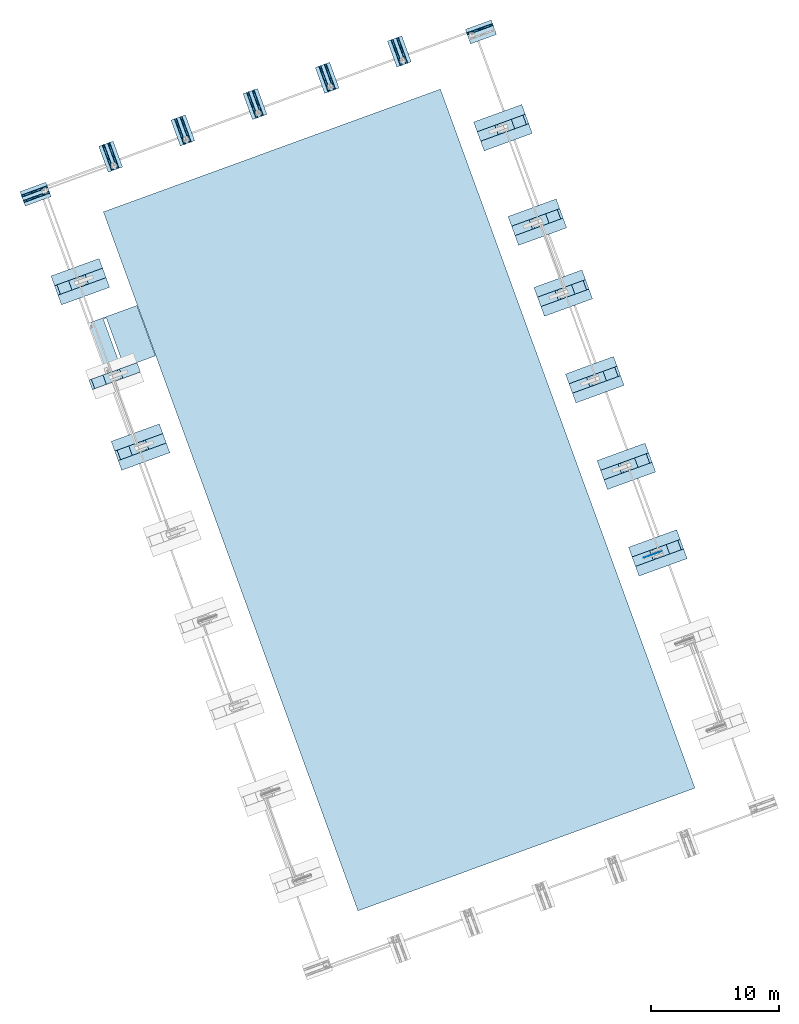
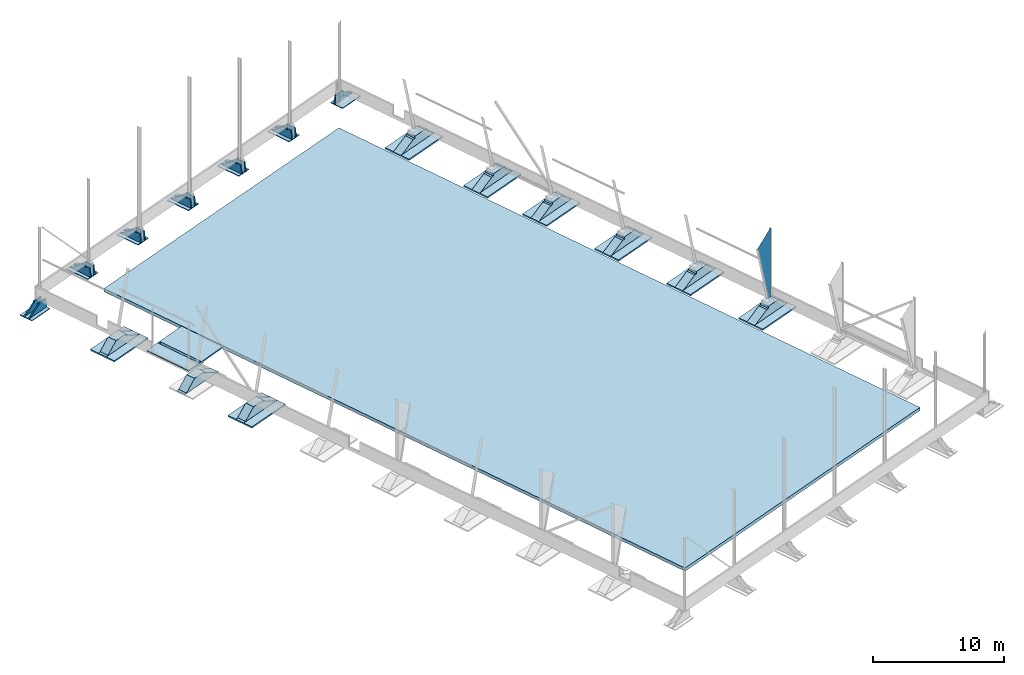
# One storey, part 13 of 20: 39 slabs, 1 plate, 1 opening, 40 elements without a shape of their own.
"""IFC4 building model written with IfcOpenShell, lengths in millimetres."""

import ifcopenshell
import ifcopenshell.guid

model = None  # the IFC model being written
_history = None  # IfcOwnerHistory: only IFC2X3 demands one
_inside = {}  # id of a spatial element -> (the spatial element, [elements in it])
_under = {}  # id of a project, library or spatial element -> (it, [spatial elements below it])
_declared = {}  # id of a project -> (the project, [libraries it declares])
_typed = {}  # id of a type object -> (the type object, [elements of that type])
_made_of = {}  # id of a material, layer set ... -> (it, [elements and type objects made of it])


def new_model(schema):
    """Start an empty IFC model of exactly this schema.

    Asked for "IFC4X3", IfcOpenShell would pick the latest addendum, in which some entities
    have other attributes; the version numbers below select the first issue.
    IFC2X3 requires an IfcOwnerHistory on every rooted entity: one is made here for all.
    """
    global model, _history
    if schema == "IFC4X3":
        model = ifcopenshell.file(schema_version=(4, 3, 0, 0))
    else:
        model = ifcopenshell.file(schema=schema)
    _inside.clear()
    _under.clear()
    _declared.clear()
    _typed.clear()
    _made_of.clear()
    _history = None
    if model.schema == "IFC2X3":
        org = make("IfcOrganization", Name="unknown")
        user = make(
            "IfcPersonAndOrganization",
            ThePerson=make("IfcPerson", FamilyName="unknown"),
            TheOrganization=org,
        )
        app = make(
            "IfcApplication",
            ApplicationDeveloper=org,
            Version="unknown",
            ApplicationFullName="unknown",
            ApplicationIdentifier="unknown",
        )
        _history = make(
            "IfcOwnerHistory",
            OwningUser=user,
            OwningApplication=app,
            ChangeAction="ADDED",
            CreationDate=0,
        )
    return model


def make(cls, **values):
    """One entity of the class cls with the attributes given. An attribute that is None is left unset."""
    return model.create_entity(
        cls, **{name: value for name, value in values.items() if value is not None}
    )


def rooted(cls, **values):
    """An entity with a GlobalId (a new one), such as an element, a storey or a relation."""
    return make(cls, GlobalId=ifcopenshell.guid.new(), OwnerHistory=_history, **values)


def si_unit(unit_type, name, prefix=None):
    """IfcSIUnit, for example si_unit("LENGTHUNIT", "METRE", prefix="MILLI")."""
    return make("IfcSIUnit", UnitType=unit_type, Prefix=prefix, Name=name)


def assignment(units):
    """IfcUnitAssignment: the units of a project."""
    return None if units is None else make("IfcUnitAssignment", Units=units)


def point(xyz):
    """IfcCartesianPoint."""
    return None if xyz is None else make("IfcCartesianPoint", Coordinates=xyz)


def direction(xyz):
    """IfcDirection."""
    return None if xyz is None else make("IfcDirection", DirectionRatios=xyz)


def frame(location, z_axis=None, x_axis=None):
    """IfcAxis2Placement3D, a coordinate frame: its origin and axes. An axis left out is left unset."""
    return make(
        "IfcAxis2Placement3D",
        Location=point(location),
        Axis=direction(z_axis),
        RefDirection=direction(x_axis),
    )


def origin_with_axes():
    """The frame at (0, 0, 0) with the z axis (0, 0, 1) and the x axis (1, 0, 0) written out."""
    return frame((0.0, 0.0, 0.0), z_axis=(0.0, 0.0, 1.0), x_axis=(1.0, 0.0, 0.0))


def place(relative_to, where):
    """IfcLocalPlacement: puts the frame where relative to a parent placement (None: the world)."""
    return make(
        "IfcLocalPlacement", PlacementRelTo=relative_to, RelativePlacement=where
    )


def context(
    kind, dimensions, precision=None, world=None, true_north=None, identifier=None
):
    """IfcGeometricRepresentationContext, for example the 3D "Model" context."""
    return make(
        "IfcGeometricRepresentationContext",
        ContextIdentifier=identifier,
        ContextType=kind,
        CoordinateSpaceDimension=dimensions,
        Precision=precision,
        WorldCoordinateSystem=world,
        TrueNorth=true_north,
    )


def subcontext(parent, identifier, kind, view, scale=None):
    """IfcGeometricRepresentationSubContext, for example "Body" below "Model"."""
    return make(
        "IfcGeometricRepresentationSubContext",
        ContextIdentifier=identifier,
        ContextType=kind,
        ParentContext=parent,
        TargetScale=scale,
        TargetView=view,
    )


def project(units=None, contexts=None):
    """IfcProject with its units and contexts."""
    return rooted(
        "IfcProject",
        Name="project",
        RepresentationContexts=contexts,
        UnitsInContext=assignment(units),
    )


def spatial(cls, under=None, at=None, **own):
    """A site, building, storey or space (cls), placed at a placement, below another one or the project."""
    s = rooted(cls, ObjectPlacement=at, **own)
    if under is not None:
        _under.setdefault(under.id(), (under, []))[1].append(s)
    return s


def point_list(points):
    """IfcCartesianPointList2D or 3D."""
    cls = (
        "IfcCartesianPointList2D" if len(points[0]) == 2 else "IfcCartesianPointList3D"
    )
    return make(cls, CoordList=points)


def line(*indices):
    """IfcLineIndex: a straight run through numbered points of an indexed curve."""
    return model.create_entity("IfcLineIndex", indices)


def indexed_curve(points, segments=None, self_intersect=None):
    """IfcIndexedPolyCurve: lines and arcs through numbered points (the first is 1)."""
    return make(
        "IfcIndexedPolyCurve",
        Points=point_list(points),
        Segments=segments,
        SelfIntersect=self_intersect,
    )


def outline(outer, holes=None, kind="AREA"):
    """IfcArbitraryClosedProfileDef: a profile drawn as a closed curve; with holes, ...WithVoids."""
    if holes is None:
        return make("IfcArbitraryClosedProfileDef", ProfileType=kind, OuterCurve=outer)
    return make(
        "IfcArbitraryProfileDefWithVoids",
        ProfileType=kind,
        OuterCurve=outer,
        InnerCurves=holes,
    )


def extrude(swept, where, along, depth):
    """IfcExtrudedAreaSolid: the profile swept, set in the frame where, extruded along a direction by depth."""
    return make(
        "IfcExtrudedAreaSolid",
        SweptArea=swept,
        Position=where,
        ExtrudedDirection=direction(along),
        Depth=depth,
    )


def shape(context_of_items, identifier, shape_type, items):
    """IfcShapeRepresentation: the items that make up one representation, for example the "Body"."""
    return make(
        "IfcShapeRepresentation",
        ContextOfItems=context_of_items,
        RepresentationIdentifier=identifier,
        RepresentationType=shape_type,
        Items=items,
    )


def material(Name=None, Category=None):
    """IfcMaterial."""
    return make("IfcMaterial", Name=Name, Category=Category)


def made_of(thing, what):
    """Note that an element or type object is made of a material, layer set ...; save() writes the relation."""
    if what is not None:
        _made_of.setdefault(what.id(), (what, []))[1].append(thing)
    return thing


def element(
    cls,
    number,
    at=None,
    inside=None,
    cuts=None,
    type_object=None,
    material=None,
    context=None,
    identifier="Body",
    shape_type=None,
    held_by="IfcProductDefinitionShape",
    body=None,
    shapes=None,
    **own,
):
    """One element of the class cls, such as IfcWall. Its Tag is "e" and its number.

    at: its placement. inside: the storey or other place that contains it. cuts: it is an
    opening in that element (IfcRelVoidsElement). A single representation is given by context,
    identifier, shape_type and body (its items); several are given by shapes. held_by: the class
    of the entity that holds the representations. save() writes the other relations.
    """
    e = rooted(cls, Tag="e%d" % number, ObjectPlacement=at, **own)
    if body is not None:
        shapes = [shape(context, identifier, shape_type, body)]
    if shapes is not None:
        e.Representation = make(held_by, Representations=shapes)
    if inside is not None:
        _inside.setdefault(inside.id(), (inside, []))[1].append(e)
    if cuts is not None:
        rooted(
            "IfcRelVoidsElement", RelatingBuildingElement=cuts, RelatedOpeningElement=e
        )
    if type_object is not None:
        _typed.setdefault(type_object.id(), (type_object, []))[1].append(e)
    return made_of(e, material)


def aggregate(whole, parts):
    """IfcRelAggregates: a whole, such as a stair, and the parts it consists of."""
    return rooted("IfcRelAggregates", RelatingObject=whole, RelatedObjects=parts)


def save(model, path):
    """Write the relations noted so far, then the file.

    IfcRelAggregates (storeys below a building ...), IfcRelContainedInSpatialStructure (elements
    in a storey), IfcRelDefinesByType, IfcRelAssociatesMaterial and IfcRelDeclares: one each for
    every whole, place, type object, material and project.
    """
    for whole, parts in _under.values():
        aggregate(whole, parts)
    for where, things in _inside.values():
        rooted(
            "IfcRelContainedInSpatialStructure",
            RelatedElements=things,
            RelatingStructure=where,
        )
    for kind, things in _typed.values():
        rooted("IfcRelDefinesByType", RelatedObjects=things, RelatingType=kind)
    for what, things in _made_of.values():
        rooted("IfcRelAssociatesMaterial", RelatedObjects=things, RelatingMaterial=what)
    for by, libraries in _declared.values():
        rooted("IfcRelDeclares", RelatingContext=by, RelatedDefinitions=libraries)
    model.write(path)


model = new_model("IFC4")

# Units and contexts
model_context = context("Model", 3, precision=0.2, world=frame((203566.813, 116264.779, 0.0), z_axis=(0.0, 0.0, 1.0), x_axis=(1.0, 0.0, 0.0)), true_north=direction((-0.9396138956, -0.3422363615)))
body_context = subcontext(model_context, "Body", "Model", "MODEL_VIEW")
ifc_project = project(units=[si_unit("LENGTHUNIT", "METRE", prefix="MILLI"), si_unit("AREAUNIT", "SQUARE_METRE"), si_unit("VOLUMEUNIT", "CUBIC_METRE"), si_unit("MASSUNIT", "GRAM", prefix="KILO"), si_unit("TIMEUNIT", "SECOND"), si_unit("PLANEANGLEUNIT", "RADIAN"), si_unit("SOLIDANGLEUNIT", "STERADIAN"), si_unit("THERMODYNAMICTEMPERATUREUNIT", "DEGREE_CELSIUS"), si_unit("LUMINOUSINTENSITYUNIT", "LUMEN")], contexts=[model_context])

# Site, building, storey
site_placement = place(None, origin_with_axes())
site = spatial("IfcSite", under=ifc_project, at=site_placement, Name="Nobelprojektet", CompositionType="ELEMENT")
building_placement = place(site_placement, origin_with_axes())
building = spatial("IfcBuilding", under=site, at=building_placement, Name="Hall B", CompositionType="ELEMENT")
storey_placement = place(building_placement, frame((0.0, 0.0, 1000.0), z_axis=(0.0, 0.0, 1.0), x_axis=(1.0, 0.0, 0.0)))
storey = spatial("IfcBuildingStorey", under=building, at=storey_placement, Name="Plan_1", CompositionType="ELEMENT", Elevation=1000.0)

# Assembly, slab
assembly_1_placement = place(storey_placement, frame((175074.14862, 143562.03183, 130904.99996), z_axis=(0.0, 0.0, 1.0), x_axis=(0.9396136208, 0.3422371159, 0.0)))
assembly_1 = element("IfcElementAssembly", 1, at=assembly_1_placement, inside=storey, Name="BEF_GRUND", PredefinedType="NOTDEFINED")
ifc_material_1 = material(Name="C25/30", Category="CONCRETE")
slab_1_placement = place(assembly_1_placement, origin_with_axes())
slab_1 = element("IfcSlab", 2, at=slab_1_placement, material=ifc_material_1, Name="BEF_GRUND", PredefinedType="NOTDEFINED", context=body_context, shape_type="SolidModel", body=[
    extrude(outline(indexed_curve([(0.0, 0.0), (4000.0, 0.0), (4000.0, 2399.9939), (0.0, 2400.0)], segments=[line(1, 2, 3, 4, 1)])), frame((0.0, 0.0, 65.0), z_axis=(0.0, 0.0, 1.0), x_axis=(1.0, 0.0, 0.0)), (0.0, 0.0, -1.0), 130.0),
])
aggregate(assembly_1, [slab_1])

assembly_2_placement = place(storey_placement, frame((178421.92237, 146058.51153, 130969.99996), z_axis=(0.3422371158, -0.9396136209, 1.3e-09), x_axis=(-0.9213674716, -0.3355896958, 0.1961161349)))
assembly_2 = element("IfcElementAssembly", 3, at=assembly_2_placement, inside=storey, Name="BEF_GRUND", PredefinedType="NOTDEFINED")
slab_2_placement = place(assembly_2_placement, origin_with_axes())
slab_2 = element("IfcSlab", 4, at=slab_2_placement, material=ifc_material_1, Name="BEF_GRUND", PredefinedType="NOTDEFINED", context=body_context, shape_type="SolidModel", body=[
    extrude(outline(indexed_curve([(0.0, 0.0), (203.96078, 0.0), (1321.82275, -653.45896), (2478.90795, -422.04192), (2439.68472, -225.92579), (2627.95621, -188.27149), (3734.05121, 706.01809), (3922.3227, 784.46454)], segments=[line(1, 2, 3, 4, 5, 6, 7, 8, 1)])), frame((0.0, 0.0, 392.5), z_axis=(0.0, 0.0, 1.0), x_axis=(1.0, 0.0, 0.0)), (0.0, 0.0, -1.0), 785.0),
])
aggregate(assembly_2, [slab_2])

assembly_3_placement = place(storey_placement, frame((172610.04139, 150327.2499, 130904.99996), z_axis=(0.0, 0.0, 1.0), x_axis=(0.9396136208, 0.3422371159, 0.0)))
assembly_3 = element("IfcElementAssembly", 5, at=assembly_3_placement, inside=storey, Name="BEF_GRUND", PredefinedType="NOTDEFINED")
slab_3_placement = place(assembly_3_placement, origin_with_axes())
slab_3 = element("IfcSlab", 6, at=slab_3_placement, material=ifc_material_1, Name="BEF_GRUND", PredefinedType="NOTDEFINED", context=body_context, shape_type="SolidModel", body=[
    extrude(outline(indexed_curve([(0.0, 0.0), (4000.0, 0.0), (4000.0, 2399.9939), (0.0, 2400.0)], segments=[line(1, 2, 3, 4, 1)])), frame((0.0, 0.0, 65.0), z_axis=(0.0, 0.0, 1.0), x_axis=(1.0, 0.0, 0.0)), (0.0, 0.0, -1.0), 130.0),
])
aggregate(assembly_3, [slab_3])

assembly_4_placement = place(storey_placement, frame((175957.81514, 152823.7296, 130969.99996), z_axis=(0.3422371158, -0.9396136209, 1.3e-09), x_axis=(-0.9213674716, -0.3355896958, 0.1961161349)))
assembly_4 = element("IfcElementAssembly", 7, at=assembly_4_placement, inside=storey, Name="BEF_GRUND", PredefinedType="NOTDEFINED")
slab_4_placement = place(assembly_4_placement, origin_with_axes())
slab_4 = element("IfcSlab", 8, at=slab_4_placement, material=ifc_material_1, Name="BEF_GRUND", PredefinedType="NOTDEFINED", context=body_context, shape_type="SolidModel", body=[
    extrude(outline(indexed_curve([(0.0, 0.0), (203.96078, 0.0), (1321.82275, -653.45896), (2478.90795, -422.04192), (2439.68472, -225.92579), (2627.95621, -188.27149), (3734.05121, 706.01809), (3922.3227, 784.46454)], segments=[line(1, 2, 3, 4, 5, 6, 7, 8, 1)])), frame((0.0, 0.0, 392.5), z_axis=(0.0, 0.0, 1.0), x_axis=(1.0, 0.0, 0.0)), (0.0, 0.0, -1.0), 785.0),
])
aggregate(assembly_4, [slab_4])

assembly_5_placement = place(storey_placement, frame((170145.93415, 157092.46797, 130904.99996), z_axis=(0.0, 0.0, 1.0), x_axis=(0.9396136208, 0.3422371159, 0.0)))
assembly_5 = element("IfcElementAssembly", 9, at=assembly_5_placement, inside=storey, Name="BEF_GRUND", PredefinedType="NOTDEFINED")
slab_5_placement = place(assembly_5_placement, origin_with_axes())
slab_5 = element("IfcSlab", 10, at=slab_5_placement, material=ifc_material_1, Name="BEF_GRUND", PredefinedType="NOTDEFINED", context=body_context, shape_type="SolidModel", body=[
    extrude(outline(indexed_curve([(0.0, 0.0), (4000.0, 0.0), (4000.0, 2399.9939), (0.0, 2400.0)], segments=[line(1, 2, 3, 4, 1)])), frame((0.0, 0.0, 65.0), z_axis=(0.0, 0.0, 1.0), x_axis=(1.0, 0.0, 0.0)), (0.0, 0.0, -1.0), 130.0),
])
aggregate(assembly_5, [slab_5])

assembly_6_placement = place(storey_placement, frame((173493.70791, 159588.94767, 130969.99996), z_axis=(0.3422371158, -0.9396136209, 1.3e-09), x_axis=(-0.9213674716, -0.3355896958, 0.1961161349)))
assembly_6 = element("IfcElementAssembly", 11, at=assembly_6_placement, inside=storey, Name="BEF_GRUND", PredefinedType="NOTDEFINED")
slab_6_placement = place(assembly_6_placement, origin_with_axes())
slab_6 = element("IfcSlab", 12, at=slab_6_placement, material=ifc_material_1, Name="BEF_GRUND", PredefinedType="NOTDEFINED", context=body_context, shape_type="SolidModel", body=[
    extrude(outline(indexed_curve([(0.0, 0.0), (203.96078, 0.0), (1321.82275, -653.45896), (2478.90795, -422.04192), (2439.68472, -225.92579), (2627.95621, -188.27149), (3734.05121, 706.01809), (3922.3227, 784.46454)], segments=[line(1, 2, 3, 4, 5, 6, 7, 8, 1)])), frame((0.0, 0.0, 392.5), z_axis=(0.0, 0.0, 1.0), x_axis=(1.0, 0.0, 0.0)), (0.0, 0.0, -1.0), 785.0),
])
aggregate(assembly_6, [slab_6])

assembly_7_placement = place(storey_placement, frame((167681.82692, 163857.68604, 130904.99996), z_axis=(0.0, 0.0, 1.0), x_axis=(0.9396136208, 0.3422371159, 0.0)))
assembly_7 = element("IfcElementAssembly", 13, at=assembly_7_placement, inside=storey, Name="BEF_GRUND", PredefinedType="NOTDEFINED")
slab_7_placement = place(assembly_7_placement, origin_with_axes())
slab_7 = element("IfcSlab", 14, at=slab_7_placement, material=ifc_material_1, Name="BEF_GRUND", PredefinedType="NOTDEFINED", context=body_context, shape_type="SolidModel", body=[
    extrude(outline(indexed_curve([(0.0, 0.0), (4000.0, 0.0), (4000.0, 2399.9939), (0.0, 2400.0)], segments=[line(1, 2, 3, 4, 1)])), frame((0.0, 0.0, 65.0), z_axis=(0.0, 0.0, 1.0), x_axis=(1.0, 0.0, 0.0)), (0.0, 0.0, -1.0), 130.0),
])
aggregate(assembly_7, [slab_7])

assembly_8_placement = place(storey_placement, frame((171029.60067, 166354.16574, 130969.99996), z_axis=(0.3422371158, -0.9396136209, 1.3e-09), x_axis=(-0.9213674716, -0.3355896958, 0.1961161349)))
assembly_8 = element("IfcElementAssembly", 15, at=assembly_8_placement, inside=storey, Name="BEF_GRUND", PredefinedType="NOTDEFINED")
slab_8_placement = place(assembly_8_placement, origin_with_axes())
slab_8 = element("IfcSlab", 16, at=slab_8_placement, material=ifc_material_1, Name="BEF_GRUND", PredefinedType="NOTDEFINED", context=body_context, shape_type="SolidModel", body=[
    extrude(outline(indexed_curve([(0.0, 0.0), (203.96078, 0.0), (1321.82275, -653.45896), (2478.90795, -422.04192), (2439.68472, -225.92579), (2627.95621, -188.27149), (3734.05121, 706.01809), (3922.3227, 784.46454)], segments=[line(1, 2, 3, 4, 5, 6, 7, 8, 1)])), frame((0.0, 0.0, 392.5), z_axis=(0.0, 0.0, 1.0), x_axis=(1.0, 0.0, 0.0)), (0.0, 0.0, -1.0), 785.0),
])
aggregate(assembly_8, [slab_8])

assembly_9_placement = place(storey_placement, frame((138422.26776, 153200.42553, 130904.99996), z_axis=(0.0, 0.0, -1.0), x_axis=(-0.9396136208, -0.3422371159, 0.0)))
assembly_9 = element("IfcElementAssembly", 17, at=assembly_9_placement, inside=storey, Name="BEF_GRUND", PredefinedType="NOTDEFINED")
slab_9_placement = place(assembly_9_placement, origin_with_axes())
slab_9 = element("IfcSlab", 18, at=slab_9_placement, material=ifc_material_1, Name="BEF_GRUND", PredefinedType="NOTDEFINED", context=body_context, shape_type="SolidModel", body=[
    extrude(outline(indexed_curve([(0.0, 0.0), (4000.0, 0.0), (4000.0, 2399.9939), (0.0, 2400.0)], segments=[line(1, 2, 3, 4, 1)])), frame((0.0, 0.0, 65.0), z_axis=(0.0, 0.0, 1.0), x_axis=(1.0, 0.0, 0.0)), (0.0, 0.0, -1.0), 130.0),
])
aggregate(assembly_9, [slab_9])

assembly_10_placement = place(storey_placement, frame((134253.12911, 152959.00705, 130969.99996), z_axis=(-0.3422371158, 0.9396136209, 1.3e-09), x_axis=(0.9213664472, 0.3355925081, 0.1961161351)))
assembly_10 = element("IfcElementAssembly", 19, at=assembly_10_placement, inside=storey, Name="BEF_GRUND", PredefinedType="NOTDEFINED")
slab_10_placement = place(assembly_10_placement, origin_with_axes())
slab_10 = element("IfcSlab", 20, at=slab_10_placement, material=ifc_material_1, Name="BEF_GRUND", PredefinedType="NOTDEFINED", context=body_context, shape_type="SolidModel", body=[
    extrude(outline(indexed_curve([(0.0, 0.0), (203.96078, 0.0), (1321.82275, -653.45896), (2478.90795, -422.04192), (2439.68472, -225.92579), (2627.95621, -188.27149), (3734.05121, 706.01809), (3922.3227, 784.46454)], segments=[line(1, 2, 3, 4, 5, 6, 7, 8, 1)])), frame((0.0, 0.0, 392.5), z_axis=(0.0, 0.0, 1.0), x_axis=(1.0, 0.0, 0.0)), (0.0, 0.0, -1.0), 785.0),
])
aggregate(assembly_10, [slab_10])

assembly_11_placement = place(storey_placement, frame((165662.62793, 169401.4064, 130904.99996), z_axis=(0.0, 0.0, 1.0), x_axis=(0.9396136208, 0.3422371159, 0.0)))
assembly_11 = element("IfcElementAssembly", 21, at=assembly_11_placement, inside=storey, Name="BEF_GRUND", PredefinedType="NOTDEFINED")
slab_11_placement = place(assembly_11_placement, origin_with_axes())
slab_11 = element("IfcSlab", 22, at=slab_11_placement, material=ifc_material_1, Name="BEF_GRUND", PredefinedType="NOTDEFINED", context=body_context, shape_type="SolidModel", body=[
    extrude(outline(indexed_curve([(0.0, 0.0), (4000.0, 0.0), (4000.0, 2399.9939), (0.0, 2400.0)], segments=[line(1, 2, 3, 4, 1)])), frame((0.0, 0.0, 65.0), z_axis=(0.0, 0.0, 1.0), x_axis=(1.0, 0.0, 0.0)), (0.0, 0.0, -1.0), 130.0),
])
aggregate(assembly_11, [slab_11])

assembly_12_placement = place(storey_placement, frame((169010.40169, 171897.8861, 130969.99996), z_axis=(0.3422371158, -0.9396136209, 1.3e-09), x_axis=(-0.9213674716, -0.3355896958, 0.1961161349)))
assembly_12 = element("IfcElementAssembly", 23, at=assembly_12_placement, inside=storey, Name="BEF_GRUND", PredefinedType="NOTDEFINED")
slab_12_placement = place(assembly_12_placement, origin_with_axes())
slab_12 = element("IfcSlab", 24, at=slab_12_placement, material=ifc_material_1, Name="BEF_GRUND", PredefinedType="NOTDEFINED", context=body_context, shape_type="SolidModel", body=[
    extrude(outline(indexed_curve([(0.0, 0.0), (203.96078, 0.0), (1321.82275, -653.45896), (2478.90795, -422.04192), (2439.68472, -225.92579), (2627.95621, -188.27149), (3734.05121, 706.01809), (3922.3227, 784.46454)], segments=[line(1, 2, 3, 4, 5, 6, 7, 8, 1)])), frame((0.0, 0.0, 392.5), z_axis=(0.0, 0.0, 1.0), x_axis=(1.0, 0.0, 0.0)), (0.0, 0.0, -1.0), 785.0),
])
aggregate(assembly_12, [slab_12])

assembly_13_placement = place(storey_placement, frame((132233.93012, 158502.72741, 130969.99996), z_axis=(-0.3422371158, 0.9396136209, 1.3e-09), x_axis=(0.9213664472, 0.3355925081, 0.1961161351)))
assembly_13 = element("IfcElementAssembly", 25, at=assembly_13_placement, inside=storey, Name="BEF_GRUND", PredefinedType="NOTDEFINED")
slab_13_placement = place(assembly_13_placement, origin_with_axes())
slab_13 = element("IfcSlab", 26, at=slab_13_placement, material=ifc_material_1, Name="BEF_GRUND", PredefinedType="NOTDEFINED", context=body_context, shape_type="SolidModel", body=[
    extrude(outline(indexed_curve([(0.0, 0.0), (203.96078, 0.0), (1321.82275, -653.45896), (2478.90795, -422.04192), (2439.68472, -225.92579), (2627.95621, -188.27149), (3734.05121, 706.01809), (3922.3227, 784.46454)], segments=[line(1, 2, 3, 4, 5, 6, 7, 8, 1)])), frame((0.0, 0.0, 392.5), z_axis=(0.0, 0.0, 1.0), x_axis=(1.0, 0.0, 0.0)), (0.0, 0.0, -1.0), 785.0),
])
aggregate(assembly_13, [slab_13])

assembly_14_placement = place(storey_placement, frame((162976.06657, 176777.37333, 130904.99996), z_axis=(0.0, 0.0, 1.0), x_axis=(0.9396136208, 0.3422371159, 0.0)))
assembly_14 = element("IfcElementAssembly", 27, at=assembly_14_placement, inside=storey, Name="BEF_GRUND", PredefinedType="NOTDEFINED")
slab_14_placement = place(assembly_14_placement, origin_with_axes())
slab_14 = element("IfcSlab", 28, at=slab_14_placement, material=ifc_material_1, Name="BEF_GRUND", PredefinedType="NOTDEFINED", context=body_context, shape_type="SolidModel", body=[
    extrude(outline(indexed_curve([(0.0, 0.0), (4000.0, 0.0), (4000.0, 2399.9939), (0.0, 2400.0)], segments=[line(1, 2, 3, 4, 1)])), frame((0.0, 0.0, 65.0), z_axis=(0.0, 0.0, 1.0), x_axis=(1.0, 0.0, 0.0)), (0.0, 0.0, -1.0), 130.0),
])
aggregate(assembly_14, [slab_14])

assembly_15_placement = place(storey_placement, frame((166323.84033, 179273.85303, 130969.99996), z_axis=(0.3422371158, -0.9396136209, 1.3e-09), x_axis=(-0.9213674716, -0.3355896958, 0.1961161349)))
assembly_15 = element("IfcElementAssembly", 29, at=assembly_15_placement, inside=storey, Name="BEF_GRUND", PredefinedType="NOTDEFINED")
slab_15_placement = place(assembly_15_placement, origin_with_axes())
slab_15 = element("IfcSlab", 30, at=slab_15_placement, material=ifc_material_1, Name="BEF_GRUND", PredefinedType="NOTDEFINED", context=body_context, shape_type="SolidModel", body=[
    extrude(outline(indexed_curve([(0.0, 0.0), (203.96078, 0.0), (1321.82275, -653.45896), (2478.90795, -422.04192), (2439.68472, -225.92579), (2627.95621, -188.27149), (3734.05121, 706.01809), (3922.3227, 784.46454)], segments=[line(1, 2, 3, 4, 5, 6, 7, 8, 1)])), frame((0.0, 0.0, 392.5), z_axis=(0.0, 0.0, 1.0), x_axis=(1.0, 0.0, 0.0)), (0.0, 0.0, -1.0), 785.0),
])
aggregate(assembly_15, [slab_15])

assembly_16_placement = place(storey_placement, frame((133716.50742, 166120.11282, 130904.99996), z_axis=(0.0, 0.0, -1.0), x_axis=(-0.9396136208, -0.3422371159, 0.0)))
assembly_16 = element("IfcElementAssembly", 31, at=assembly_16_placement, inside=storey, Name="BEF_GRUND", PredefinedType="NOTDEFINED")
slab_16_placement = place(assembly_16_placement, origin_with_axes())
slab_16 = element("IfcSlab", 32, at=slab_16_placement, material=ifc_material_1, Name="BEF_GRUND", PredefinedType="NOTDEFINED", context=body_context, shape_type="SolidModel", body=[
    extrude(outline(indexed_curve([(0.0, 0.0), (4000.0, 0.0), (4000.0, 2399.9939), (0.0, 2400.0)], segments=[line(1, 2, 3, 4, 1)])), frame((0.0, 0.0, 65.0), z_axis=(0.0, 0.0, 1.0), x_axis=(1.0, 0.0, 0.0)), (0.0, 0.0, -1.0), 130.0),
])
aggregate(assembly_16, [slab_16])

assembly_17_placement = place(storey_placement, frame((129547.36877, 165878.69434, 130969.99996), z_axis=(-0.3422371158, 0.9396136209, 1.3e-09), x_axis=(0.9213664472, 0.3355925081, 0.1961161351)))
assembly_17 = element("IfcElementAssembly", 33, at=assembly_17_placement, inside=storey, Name="BEF_GRUND", PredefinedType="NOTDEFINED")
slab_17_placement = place(assembly_17_placement, origin_with_axes())
slab_17 = element("IfcSlab", 34, at=slab_17_placement, material=ifc_material_1, Name="BEF_GRUND", PredefinedType="NOTDEFINED", context=body_context, shape_type="SolidModel", body=[
    extrude(outline(indexed_curve([(0.0, 0.0), (203.96078, 0.0), (1321.82275, -653.45896), (2478.90795, -422.04192), (2439.68472, -225.92579), (2627.95621, -188.27149), (3734.05121, 706.01809), (3922.3227, 784.46454)], segments=[line(1, 2, 3, 4, 5, 6, 7, 8, 1)])), frame((0.0, 0.0, 392.5), z_axis=(0.0, 0.0, 1.0), x_axis=(1.0, 0.0, 0.0)), (0.0, 0.0, -1.0), 785.0),
])
aggregate(assembly_17, [slab_17])

assembly_18_placement = place(storey_placement, frame((161918.07572, 185140.28518, 131014.99996), z_axis=(0.0, 0.0, 1.0), x_axis=(0.9396136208, 0.3422371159, 0.0)))
assembly_18 = element("IfcElementAssembly", 35, at=assembly_18_placement, inside=storey, Name="BEF_GRUND", PredefinedType="NOTDEFINED")
slab_18_placement = place(assembly_18_placement, origin_with_axes())
slab_18 = element("IfcSlab", 36, at=slab_18_placement, material=ifc_material_1, Name="BEF_GRUND", PredefinedType="NOTDEFINED", context=body_context, shape_type="SolidModel", body=[
    extrude(outline(indexed_curve([(0.0, 0.0), (2150.00916, 0.0), (2150.00916, 1200.01221), (0.0, 1200.01221)], segments=[line(1, 2, 3, 4, 1)])), frame((0.0, 0.0, 35.0), z_axis=(0.0, 0.0, 1.0), x_axis=(1.0, 0.0, 0.0)), (0.0, 0.0, -1.0), 70.0),
])
aggregate(assembly_18, [slab_18])

assembly_19_placement = place(storey_placement, frame((163655.23009, 186653.16387, 131049.99996), z_axis=(0.3422371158, -0.9396136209, 1.3e-09), x_axis=(-0.9257183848, -0.3371760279, 0.171341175)))
assembly_19 = element("IfcElementAssembly", 37, at=assembly_19_placement, inside=storey, Name="BEF_GRUND", PredefinedType="NOTDEFINED")
slab_19_placement = place(assembly_19_placement, origin_with_axes())
slab_19 = element("IfcSlab", 38, at=slab_19_placement, material=ifc_material_1, Name="BEF_GRUND", PredefinedType="NOTDEFINED", context=body_context, shape_type="SolidModel", body=[
    extrude(outline(indexed_curve([(0.0, 0.0), (233.45235, 0.0), (1303.30665, -502.11531), (1328.66514, -601.23618), (1710.9273, -534.75581), (1693.79318, -436.23463), (1800.19605, -417.72978), (1821.27102, -515.56559), (2151.31695, -458.1663), (2118.21429, 368.38509)], segments=[line(1, 2, 3, 4, 5, 6, 7, 8, 9, 10, 1)])), frame((0.0, 0.0, 65.0), z_axis=(0.0, 0.0, 1.0), x_axis=(1.0, 0.0, 0.0)), (0.0, 0.0, -1.0), 130.0),
])
aggregate(assembly_19, [slab_19])

assembly_20_placement = place(storey_placement, frame((129148.12719, 173204.42939, 131014.99996), z_axis=(0.0, 0.0, -1.0), x_axis=(-0.9396136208, -0.3422371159, 0.0)))
assembly_20 = element("IfcElementAssembly", 39, at=assembly_20_placement, inside=storey, Name="BEF_GRUND", PredefinedType="NOTDEFINED")
slab_20_placement = place(assembly_20_placement, origin_with_axes())
slab_20 = element("IfcSlab", 40, at=slab_20_placement, material=ifc_material_1, Name="BEF_GRUND", PredefinedType="NOTDEFINED", context=body_context, shape_type="SolidModel", body=[
    extrude(outline(indexed_curve([(0.0, 0.0), (2150.00916, 0.0), (2150.00916, 1200.01221), (0.0, 1200.01221)], segments=[line(1, 2, 3, 4, 1)])), frame((0.0, 0.0, 35.0), z_axis=(0.0, 0.0, 1.0), x_axis=(1.0, 0.0, 0.0)), (0.0, 0.0, -1.0), 70.0),
])
aggregate(assembly_20, [slab_20])

assembly_21_placement = place(storey_placement, frame((126844.91077, 173245.67675, 131049.99996), z_axis=(-0.3422371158, 0.9396136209, 1.3e-09), x_axis=(0.9257183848, 0.3371760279, 0.171341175)))
assembly_21 = element("IfcElementAssembly", 41, at=assembly_21_placement, inside=storey, Name="BEF_GRUND", PredefinedType="NOTDEFINED")
slab_21_placement = place(assembly_21_placement, origin_with_axes())
slab_21 = element("IfcSlab", 42, at=slab_21_placement, material=ifc_material_1, Name="BEF_GRUND", PredefinedType="NOTDEFINED", context=body_context, shape_type="SolidModel", body=[
    extrude(outline(indexed_curve([(0.0, 0.0), (233.45235, 0.0), (1303.30665, -502.11531), (1328.66514, -601.23618), (1710.9273, -534.75581), (1693.79318, -436.23463), (1800.19605, -417.72978), (1821.27102, -515.56559), (2151.31695, -458.1663), (2118.21429, 368.38509)], segments=[line(1, 2, 3, 4, 5, 6, 7, 8, 9, 10, 1)])), frame((0.0, 0.0, 65.0), z_axis=(0.0, 0.0, 1.0), x_axis=(1.0, 0.0, 0.0)), (0.0, 0.0, -1.0), 130.0),
])
aggregate(assembly_21, [slab_21])

assembly_22_placement = place(storey_placement, frame((127000.28642, 172819.09217, 131049.99996), z_axis=(-0.3422371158, 0.9396136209, 1.3e-09), x_axis=(0.9257183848, 0.3371760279, 0.171341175)))
assembly_22 = element("IfcElementAssembly", 43, at=assembly_22_placement, inside=storey, Name="BEF_GRUND", PredefinedType="NOTDEFINED")
slab_22_placement = place(assembly_22_placement, origin_with_axes())
slab_22 = element("IfcSlab", 44, at=slab_22_placement, material=ifc_material_1, Name="BEF_GRUND", PredefinedType="NOTDEFINED", context=body_context, shape_type="SolidModel", body=[
    extrude(outline(indexed_curve([(0.0, 0.0), (233.45235, 0.0), (1303.30665, -502.11531), (1328.66514, -601.23618), (1710.9273, -534.75581), (1693.79318, -436.23463), (1800.19605, -417.72978), (1821.27102, -515.56559), (2151.31695, -458.1663), (2118.21429, 368.38509)], segments=[line(1, 2, 3, 4, 5, 6, 7, 8, 9, 10, 1)])), frame((0.0, 0.0, 65.0), z_axis=(0.0, 0.0, 1.0), x_axis=(1.0, 0.0, 0.0)), (0.0, 0.0, -1.0), 130.0),
])
aggregate(assembly_22, [slab_22])

assembly_23_placement = place(storey_placement, frame((157280.51386, 183736.36448, 131014.99996), z_axis=(0.0, 0.0, 1.0), x_axis=(-0.3422371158, 0.9396136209, 1.3e-09)))
assembly_23 = element("IfcElementAssembly", 45, at=assembly_23_placement, inside=storey, Name="BEF_GRUND", PredefinedType="NOTDEFINED")
slab_23_placement = place(assembly_23_placement, origin_with_axes())
slab_23 = element("IfcSlab", 46, at=slab_23_placement, material=ifc_material_1, Name="BEF_GRUND", PredefinedType="NOTDEFINED", context=body_context, shape_type="SolidModel", body=[
    extrude(outline(indexed_curve([(0.0, 0.0), (2150.00916, 0.0), (2150.00916, 1200.01221), (0.0, 1200.01221)], segments=[line(1, 2, 3, 4, 1)])), frame((0.0, 0.0, 35.0), z_axis=(0.0, 0.0, 1.0), x_axis=(1.0, 0.0, 0.0)), (0.0, 0.0, -1.0), 70.0),
])
aggregate(assembly_23, [slab_23])

assembly_24_placement = place(storey_placement, frame((155767.63516, 185473.51885, 131049.99996), z_axis=(0.9396136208, 0.3422371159, 0.0), x_axis=(0.3371760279, -0.9257183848, 0.171341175)))
assembly_24 = element("IfcElementAssembly", 47, at=assembly_24_placement, inside=storey, Name="BEF_GRUND", PredefinedType="NOTDEFINED")
slab_24_placement = place(assembly_24_placement, origin_with_axes())
slab_24 = element("IfcSlab", 48, at=slab_24_placement, material=ifc_material_1, Name="BEF_GRUND", PredefinedType="NOTDEFINED", context=body_context, shape_type="SolidModel", body=[
    extrude(outline(indexed_curve([(0.0, 0.0), (233.45235, 0.0), (1303.30665, -502.11531), (1328.66514, -601.23618), (1710.9273, -534.75581), (1693.79318, -436.23463), (1800.19605, -417.72978), (1821.27102, -515.56559), (2151.31695, -458.1663), (2118.21429, 368.38509)], segments=[line(1, 2, 3, 4, 5, 6, 7, 8, 9, 10, 1)])), frame((0.0, 0.0, 65.0), z_axis=(0.0, 0.0, 1.0), x_axis=(1.0, 0.0, 0.0)), (0.0, 0.0, -1.0), 130.0),
])
aggregate(assembly_24, [slab_24])

assembly_25_placement = place(storey_placement, frame((156194.21975, 185628.8945, 131049.99996), z_axis=(0.9396136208, 0.3422371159, 0.0), x_axis=(0.3371760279, -0.9257183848, 0.171341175)))
assembly_25 = element("IfcElementAssembly", 49, at=assembly_25_placement, inside=storey, Name="BEF_GRUND", PredefinedType="NOTDEFINED")
slab_25_placement = place(assembly_25_placement, origin_with_axes())
slab_25 = element("IfcSlab", 50, at=slab_25_placement, material=ifc_material_1, Name="BEF_GRUND", PredefinedType="NOTDEFINED", context=body_context, shape_type="SolidModel", body=[
    extrude(outline(indexed_curve([(0.0, 0.0), (233.45235, 0.0), (1303.30665, -502.11531), (1328.66514, -601.23618), (1710.9273, -534.75581), (1693.79318, -436.23463), (1800.19605, -417.72978), (1821.27102, -515.56559), (2151.31695, -458.1663), (2118.21429, 368.38509)], segments=[line(1, 2, 3, 4, 5, 6, 7, 8, 9, 10, 1)])), frame((0.0, 0.0, 65.0), z_axis=(0.0, 0.0, 1.0), x_axis=(1.0, 0.0, 0.0)), (0.0, 0.0, -1.0), 130.0),
])
aggregate(assembly_25, [slab_25])

assembly_26_placement = place(storey_placement, frame((151642.83213, 181682.94179, 131014.99996), z_axis=(0.0, 0.0, 1.0), x_axis=(-0.3422371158, 0.9396136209, 1.3e-09)))
assembly_26 = element("IfcElementAssembly", 51, at=assembly_26_placement, inside=storey, Name="BEF_GRUND", PredefinedType="NOTDEFINED")
slab_26_placement = place(assembly_26_placement, origin_with_axes())
slab_26 = element("IfcSlab", 52, at=slab_26_placement, material=ifc_material_1, Name="BEF_GRUND", PredefinedType="NOTDEFINED", context=body_context, shape_type="SolidModel", body=[
    extrude(outline(indexed_curve([(0.0, 0.0), (2150.00916, 0.0), (2150.00916, 1200.01221), (0.0, 1200.01221)], segments=[line(1, 2, 3, 4, 1)])), frame((0.0, 0.0, 35.0), z_axis=(0.0, 0.0, 1.0), x_axis=(1.0, 0.0, 0.0)), (0.0, 0.0, -1.0), 70.0),
])
aggregate(assembly_26, [slab_26])

assembly_27_placement = place(storey_placement, frame((150129.95344, 183420.09615, 131049.99996), z_axis=(0.9396136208, 0.3422371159, 0.0), x_axis=(0.3371760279, -0.9257183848, 0.171341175)))
assembly_27 = element("IfcElementAssembly", 53, at=assembly_27_placement, inside=storey, Name="BEF_GRUND", PredefinedType="NOTDEFINED")
slab_27_placement = place(assembly_27_placement, origin_with_axes())
slab_27 = element("IfcSlab", 54, at=slab_27_placement, material=ifc_material_1, Name="BEF_GRUND", PredefinedType="NOTDEFINED", context=body_context, shape_type="SolidModel", body=[
    extrude(outline(indexed_curve([(0.0, 0.0), (233.45235, 0.0), (1303.30665, -502.11531), (1328.66514, -601.23618), (1710.9273, -534.75581), (1693.79318, -436.23463), (1800.19605, -417.72978), (1821.27102, -515.56559), (2151.31695, -458.1663), (2118.21429, 368.38509)], segments=[line(1, 2, 3, 4, 5, 6, 7, 8, 9, 10, 1)])), frame((0.0, 0.0, 65.0), z_axis=(0.0, 0.0, 1.0), x_axis=(1.0, 0.0, 0.0)), (0.0, 0.0, -1.0), 130.0),
])
aggregate(assembly_27, [slab_27])

assembly_28_placement = place(storey_placement, frame((150556.53802, 183575.4718, 131049.99996), z_axis=(0.9396136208, 0.3422371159, 0.0), x_axis=(0.3371760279, -0.9257183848, 0.171341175)))
assembly_28 = element("IfcElementAssembly", 55, at=assembly_28_placement, inside=storey, Name="BEF_GRUND", PredefinedType="NOTDEFINED")
slab_28_placement = place(assembly_28_placement, origin_with_axes())
slab_28 = element("IfcSlab", 56, at=slab_28_placement, material=ifc_material_1, Name="BEF_GRUND", PredefinedType="NOTDEFINED", context=body_context, shape_type="SolidModel", body=[
    extrude(outline(indexed_curve([(0.0, 0.0), (233.45235, 0.0), (1303.30665, -502.11531), (1328.66514, -601.23618), (1710.9273, -534.75581), (1693.79318, -436.23463), (1800.19605, -417.72978), (1821.27102, -515.56559), (2151.31695, -458.1663), (2118.21429, 368.38509)], segments=[line(1, 2, 3, 4, 5, 6, 7, 8, 9, 10, 1)])), frame((0.0, 0.0, 65.0), z_axis=(0.0, 0.0, 1.0), x_axis=(1.0, 0.0, 0.0)), (0.0, 0.0, -1.0), 130.0),
])
aggregate(assembly_28, [slab_28])

assembly_29_placement = place(storey_placement, frame((146005.15041, 179629.51909, 131014.99996), z_axis=(0.0, 0.0, 1.0), x_axis=(-0.3422371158, 0.9396136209, 1.3e-09)))
assembly_29 = element("IfcElementAssembly", 57, at=assembly_29_placement, inside=storey, Name="BEF_GRUND", PredefinedType="NOTDEFINED")
slab_29_placement = place(assembly_29_placement, origin_with_axes())
slab_29 = element("IfcSlab", 58, at=slab_29_placement, material=ifc_material_1, Name="BEF_GRUND", PredefinedType="NOTDEFINED", context=body_context, shape_type="SolidModel", body=[
    extrude(outline(indexed_curve([(0.0, 0.0), (2150.00916, 0.0), (2150.00916, 1200.01221), (0.0, 1200.01221)], segments=[line(1, 2, 3, 4, 1)])), frame((0.0, 0.0, 35.0), z_axis=(0.0, 0.0, 1.0), x_axis=(1.0, 0.0, 0.0)), (0.0, 0.0, -1.0), 70.0),
])
aggregate(assembly_29, [slab_29])

assembly_30_placement = place(storey_placement, frame((144492.27171, 181366.67346, 131049.99996), z_axis=(0.9396136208, 0.3422371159, 0.0), x_axis=(0.3371760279, -0.9257183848, 0.171341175)))
assembly_30 = element("IfcElementAssembly", 59, at=assembly_30_placement, inside=storey, Name="BEF_GRUND", PredefinedType="NOTDEFINED")
slab_30_placement = place(assembly_30_placement, origin_with_axes())
slab_30 = element("IfcSlab", 60, at=slab_30_placement, material=ifc_material_1, Name="BEF_GRUND", PredefinedType="NOTDEFINED", context=body_context, shape_type="SolidModel", body=[
    extrude(outline(indexed_curve([(0.0, 0.0), (233.45235, 0.0), (1303.30665, -502.11531), (1328.66514, -601.23618), (1710.9273, -534.75581), (1693.79318, -436.23463), (1800.19605, -417.72978), (1821.27102, -515.56559), (2151.31695, -458.1663), (2118.21429, 368.38509)], segments=[line(1, 2, 3, 4, 5, 6, 7, 8, 9, 10, 1)])), frame((0.0, 0.0, 65.0), z_axis=(0.0, 0.0, 1.0), x_axis=(1.0, 0.0, 0.0)), (0.0, 0.0, -1.0), 130.0),
])
aggregate(assembly_30, [slab_30])

assembly_31_placement = place(storey_placement, frame((144918.8563, 181522.04911, 131049.99996), z_axis=(0.9396136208, 0.3422371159, 0.0), x_axis=(0.3371760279, -0.9257183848, 0.171341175)))
assembly_31 = element("IfcElementAssembly", 61, at=assembly_31_placement, inside=storey, Name="BEF_GRUND", PredefinedType="NOTDEFINED")
slab_31_placement = place(assembly_31_placement, origin_with_axes())
slab_31 = element("IfcSlab", 62, at=slab_31_placement, material=ifc_material_1, Name="BEF_GRUND", PredefinedType="NOTDEFINED", context=body_context, shape_type="SolidModel", body=[
    extrude(outline(indexed_curve([(0.0, 0.0), (233.45235, 0.0), (1303.30665, -502.11531), (1328.66514, -601.23618), (1710.9273, -534.75581), (1693.79318, -436.23463), (1800.19605, -417.72978), (1821.27102, -515.56559), (2151.31695, -458.1663), (2118.21429, 368.38509)], segments=[line(1, 2, 3, 4, 5, 6, 7, 8, 9, 10, 1)])), frame((0.0, 0.0, 65.0), z_axis=(0.0, 0.0, 1.0), x_axis=(1.0, 0.0, 0.0)), (0.0, 0.0, -1.0), 130.0),
])
aggregate(assembly_31, [slab_31])

assembly_32_placement = place(storey_placement, frame((140367.46868, 177576.0964, 131014.99996), z_axis=(0.0, 0.0, 1.0), x_axis=(-0.3422371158, 0.9396136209, 1.3e-09)))
assembly_32 = element("IfcElementAssembly", 63, at=assembly_32_placement, inside=storey, Name="BEF_GRUND", PredefinedType="NOTDEFINED")
slab_32_placement = place(assembly_32_placement, origin_with_axes())
slab_32 = element("IfcSlab", 64, at=slab_32_placement, material=ifc_material_1, Name="BEF_GRUND", PredefinedType="NOTDEFINED", context=body_context, shape_type="SolidModel", body=[
    extrude(outline(indexed_curve([(0.0, 0.0), (2150.00916, 0.0), (2150.00916, 1200.01221), (0.0, 1200.01221)], segments=[line(1, 2, 3, 4, 1)])), frame((0.0, 0.0, 35.0), z_axis=(0.0, 0.0, 1.0), x_axis=(1.0, 0.0, 0.0)), (0.0, 0.0, -1.0), 70.0),
])
aggregate(assembly_32, [slab_32])

assembly_33_placement = place(storey_placement, frame((138854.58999, 179313.25076, 131049.99996), z_axis=(0.9396136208, 0.3422371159, 0.0), x_axis=(0.3371760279, -0.9257183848, 0.171341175)))
assembly_33 = element("IfcElementAssembly", 65, at=assembly_33_placement, inside=storey, Name="BEF_GRUND", PredefinedType="NOTDEFINED")
slab_33_placement = place(assembly_33_placement, origin_with_axes())
slab_33 = element("IfcSlab", 66, at=slab_33_placement, material=ifc_material_1, Name="BEF_GRUND", PredefinedType="NOTDEFINED", context=body_context, shape_type="SolidModel", body=[
    extrude(outline(indexed_curve([(0.0, 0.0), (233.45235, 0.0), (1303.30665, -502.11531), (1328.66514, -601.23618), (1710.9273, -534.75581), (1693.79318, -436.23463), (1800.19605, -417.72978), (1821.27102, -515.56559), (2151.31695, -458.1663), (2118.21429, 368.38509)], segments=[line(1, 2, 3, 4, 5, 6, 7, 8, 9, 10, 1)])), frame((0.0, 0.0, 65.0), z_axis=(0.0, 0.0, 1.0), x_axis=(1.0, 0.0, 0.0)), (0.0, 0.0, -1.0), 130.0),
])
aggregate(assembly_33, [slab_33])

assembly_34_placement = place(storey_placement, frame((139281.17457, 179468.62641, 131049.99996), z_axis=(0.9396136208, 0.3422371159, 0.0), x_axis=(0.3371760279, -0.9257183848, 0.171341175)))
assembly_34 = element("IfcElementAssembly", 67, at=assembly_34_placement, inside=storey, Name="BEF_GRUND", PredefinedType="NOTDEFINED")
slab_34_placement = place(assembly_34_placement, origin_with_axes())
slab_34 = element("IfcSlab", 68, at=slab_34_placement, material=ifc_material_1, Name="BEF_GRUND", PredefinedType="NOTDEFINED", context=body_context, shape_type="SolidModel", body=[
    extrude(outline(indexed_curve([(0.0, 0.0), (233.45235, 0.0), (1303.30665, -502.11531), (1328.66514, -601.23618), (1710.9273, -534.75581), (1693.79318, -436.23463), (1800.19605, -417.72978), (1821.27102, -515.56559), (2151.31695, -458.1663), (2118.21429, 368.38509)], segments=[line(1, 2, 3, 4, 5, 6, 7, 8, 9, 10, 1)])), frame((0.0, 0.0, 65.0), z_axis=(0.0, 0.0, 1.0), x_axis=(1.0, 0.0, 0.0)), (0.0, 0.0, -1.0), 130.0),
])
aggregate(assembly_34, [slab_34])

assembly_35_placement = place(storey_placement, frame((134729.78696, 175522.6737, 131014.99996), z_axis=(0.0, 0.0, 1.0), x_axis=(-0.3422371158, 0.9396136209, 1.3e-09)))
assembly_35 = element("IfcElementAssembly", 69, at=assembly_35_placement, inside=storey, Name="BEF_GRUND", PredefinedType="NOTDEFINED")
slab_35_placement = place(assembly_35_placement, origin_with_axes())
slab_35 = element("IfcSlab", 70, at=slab_35_placement, material=ifc_material_1, Name="BEF_GRUND", PredefinedType="NOTDEFINED", context=body_context, shape_type="SolidModel", body=[
    extrude(outline(indexed_curve([(0.0, 0.0), (2150.00916, 0.0), (2150.00916, 1200.01221), (0.0, 1200.01221)], segments=[line(1, 2, 3, 4, 1)])), frame((0.0, 0.0, 35.0), z_axis=(0.0, 0.0, 1.0), x_axis=(1.0, 0.0, 0.0)), (0.0, 0.0, -1.0), 70.0),
])
aggregate(assembly_35, [slab_35])

assembly_36_placement = place(storey_placement, frame((133216.90826, 177259.82807, 131049.99996), z_axis=(0.9396136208, 0.3422371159, 0.0), x_axis=(0.3371760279, -0.9257183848, 0.171341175)))
assembly_36 = element("IfcElementAssembly", 71, at=assembly_36_placement, inside=storey, Name="BEF_GRUND", PredefinedType="NOTDEFINED")
slab_36_placement = place(assembly_36_placement, origin_with_axes())
slab_36 = element("IfcSlab", 72, at=slab_36_placement, material=ifc_material_1, Name="BEF_GRUND", PredefinedType="NOTDEFINED", context=body_context, shape_type="SolidModel", body=[
    extrude(outline(indexed_curve([(0.0, 0.0), (233.45235, 0.0), (1303.30665, -502.11531), (1328.66514, -601.23618), (1710.9273, -534.75581), (1693.79318, -436.23463), (1800.19605, -417.72978), (1821.27102, -515.56559), (2151.31695, -458.1663), (2118.21429, 368.38509)], segments=[line(1, 2, 3, 4, 5, 6, 7, 8, 9, 10, 1)])), frame((0.0, 0.0, 65.0), z_axis=(0.0, 0.0, 1.0), x_axis=(1.0, 0.0, 0.0)), (0.0, 0.0, -1.0), 130.0),
])
aggregate(assembly_36, [slab_36])

assembly_37_placement = place(storey_placement, frame((133643.49285, 177415.20372, 131049.99996), z_axis=(0.9396136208, 0.3422371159, 0.0), x_axis=(0.3371760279, -0.9257183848, 0.171341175)))
assembly_37 = element("IfcElementAssembly", 73, at=assembly_37_placement, inside=storey, Name="BEF_GRUND", PredefinedType="NOTDEFINED")
slab_37_placement = place(assembly_37_placement, origin_with_axes())
slab_37 = element("IfcSlab", 74, at=slab_37_placement, material=ifc_material_1, Name="BEF_GRUND", PredefinedType="NOTDEFINED", context=body_context, shape_type="SolidModel", body=[
    extrude(outline(indexed_curve([(0.0, 0.0), (233.45235, 0.0), (1303.30665, -502.11531), (1328.66514, -601.23618), (1710.9273, -534.75581), (1693.79318, -436.23463), (1800.19605, -417.72978), (1821.27102, -515.56559), (2151.31695, -458.1663), (2118.21429, 368.38509)], segments=[line(1, 2, 3, 4, 5, 6, 7, 8, 9, 10, 1)])), frame((0.0, 0.0, 65.0), z_axis=(0.0, 0.0, 1.0), x_axis=(1.0, 0.0, 0.0)), (0.0, 0.0, -1.0), 130.0),
])
aggregate(assembly_37, [slab_37])

# Assembly, plate
assembly_38_placement = place(storey_placement, frame((176888.6199, 145516.07914, 132199.9974), z_axis=(-0.3422371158, 0.9396136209, 1.3e-09), x_axis=(-0.9396136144, -0.3422371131, 0.000118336)))
assembly_38 = element("IfcElementAssembly", 75, at=assembly_38_placement, inside=storey, Name="BEF. STOMME", PredefinedType="NOTDEFINED")
ifc_material_2 = material(Name="S355J2", Category="STEEL")
plate_placement = place(assembly_38_placement, origin_with_axes())
plate = element("IfcPlate", 76, at=plate_placement, material=ifc_material_2, Name="BEF. STOMME", PredefinedType="NOTDEFINED", context=body_context, shape_type="SolidModel", body=[
    extrude(outline(indexed_curve([(0.0, 0.0), (294.31153, 0.0), (1536.28957, 5258.44015), (0.76173, 6436.97017)], segments=[line(1, 2, 3, 4, 1)])), frame((0.0, 0.0, 4.0), z_axis=(0.0, 0.0, 1.0), x_axis=(1.0, 0.0, 0.0)), (0.0, 0.0, -1.0), 8.0),
])
aggregate(assembly_38, [plate])

# Assembly, slab
assembly_39_placement = place(storey_placement, frame((179445.21049, 127003.03543, 132030.0), z_axis=(0.0, 0.0, 1.0), x_axis=(-0.3422371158, 0.9396136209, 1.3e-09)))
assembly_39 = element("IfcElementAssembly", 77, at=assembly_39_placement, inside=storey, Name="BEF_GRUND", PredefinedType="NOTDEFINED")
slab_38_placement = place(assembly_39_placement, origin_with_axes())
slab_38 = element("IfcSlab", 78, at=slab_38_placement, material=ifc_material_1, Name="BEF_GRUND", PredefinedType="NOTDEFINED", context=body_context, shape_type="SolidModel", body=[
    extrude(outline(indexed_curve([(0.0, 0.0), (58110.0, 0.0), (58110.0, 28020.0), (0.0, 28020.0)], segments=[line(1, 2, 3, 4, 1)])), frame((0.0, 0.0, 150.0), z_axis=(0.0, 0.0, 1.0), x_axis=(1.0, 0.0, 0.0)), (0.0, 0.0, -1.0), 300.0),
])
aggregate(assembly_39, [slab_38])

# Assembly, slab, voiding feature
assembly_40_placement = place(storey_placement, frame((136576.9656, 162737.29821, 132179.99996), z_axis=(0.3422371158, -0.9396136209, 1.3e-09), x_axis=(-0.9394374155, -0.3421765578, -0.019301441)))
assembly_40 = element("IfcElementAssembly", 79, at=assembly_40_placement, inside=storey, Name="BJÄLKLAG", PredefinedType="NOTDEFINED")
slab_39_placement = place(assembly_40_placement, origin_with_axes())
slab_39 = element("IfcSlab", 80, at=slab_39_placement, material=ifc_material_1, Name="BEFINTLIG", PredefinedType="NOTDEFINED", context=body_context, shape_type="SolidModel", body=[
    extrude(outline(indexed_curve([(0.0, 0.0), (2590.48015, 0.0), (3840.24729, -24.1268), (4110.48651, -14.34099), (4112.51316, 90.63945), (3092.70318, 110.32692), (3094.63332, 210.3083), (2344.77304, 224.78438), (2342.8429, 124.80301), (2.31617, 119.97765)], segments=[line(1, 2, 3, 4, 5, 6, 7, 8, 9, 10, 1)])), frame((0.0, 0.0, 2100.0), z_axis=(0.0, 0.0, 1.0), x_axis=(1.0, 0.0, 0.0)), (0.0, 0.0, -1.0), 4200.0),
])
voiding_feature_placement = place(slab_39_placement, frame((2590.48089, -1e-05, 0.0), z_axis=(0.0, 0.0, -1.0), x_axis=(0.019301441, 0.9998137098, -8e-10)))
element("IfcVoidingFeature", 81, at=voiding_feature_placement, cuts=slab_39, Name="CUTPART", PredefinedType="HOLE", context=body_context, shape_type="SolidModel", body=[
    extrude(outline(indexed_curve([(0.0, 0.0), (220.0, 0.0), (220.0, 250.0), (0.0, 250.0)], segments=[line(1, 2, 3, 4, 1)])), frame((0.0, 0.0, 2000.0), z_axis=(0.0, 0.0, 1.0), x_axis=(1.0, 0.0, 0.0)), (0.0, 0.0, -1.0), 4000.0),
])
aggregate(assembly_40, [slab_39])

save(model, "model.ifc")
